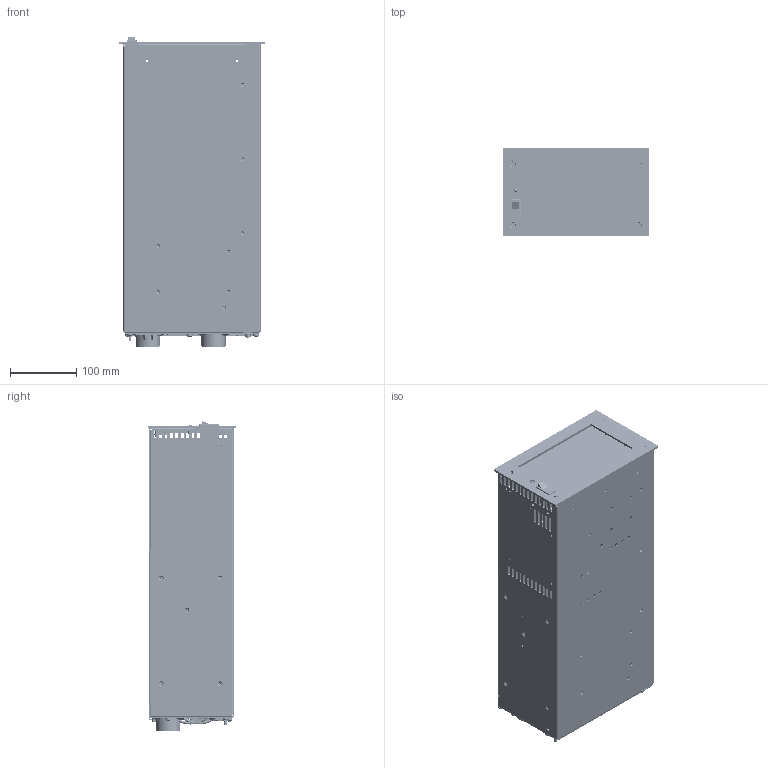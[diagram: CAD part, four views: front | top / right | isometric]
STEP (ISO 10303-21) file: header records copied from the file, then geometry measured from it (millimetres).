
FILE_DESCRIPTION((''),'2;1');
FILE_NAME('TSPQ_STANDARD_FP_IGES','2019-11-27T15:11:21',('langebj'),('Gamma Vacuum, LLC'),'CREO PARAMETRIC BY PTC INC, 2017380','CREO PARAMETRIC BY PTC INC, 2017380','');
FILE_SCHEMA(('AUTOMOTIVE_DESIGN { 1 0 10303 214 1 1 1 1 }'));
Products named in the file (1): TSPQ_STANDARD_FP_IGES
Bounding box: 219.2 x 132.54 x 467.86 mm (x, y, z)
Surface area: 1078891.4 mm2 (no closed solid volume)
Topology: 0 solids, 0 shells, 15434 faces, 82281 edges, 82049 vertices
Faces by surface type: plane 10891, cylinder 3412, cone 468, torus 382, extrusion 144, bspline 107, sphere 30
Entity records: 1207905 total; most frequent: CARTESIAN_POINT 250633, DIRECTION 150610, TRIMMED_CURVE 111865, VECTOR 103787, LINE 103643, DEFINITIONAL_REPRESENTATION 81892, PCURVE 81892, COMPOSITE_CURVE_SEGMENT 81892
